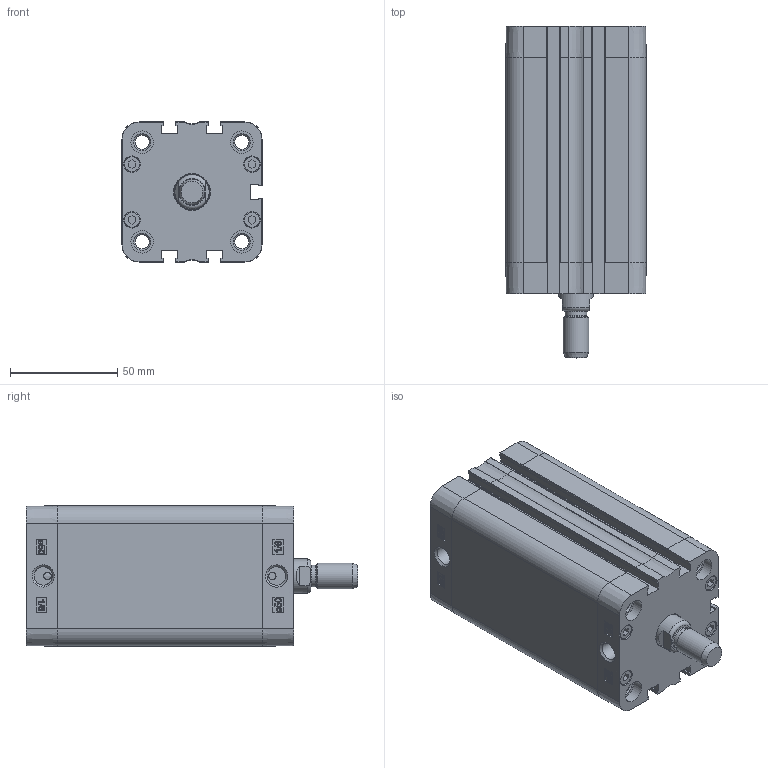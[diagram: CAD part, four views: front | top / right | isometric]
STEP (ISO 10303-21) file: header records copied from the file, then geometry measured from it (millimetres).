
FILE_DESCRIPTION((''),'2;1');
FILE_NAME('T:\Archivio Inventor\- CATALOGHI 2012\SERIE P - NUOVA\PDM\PDM050\PDM050.---.GS.M\PDM050.080.GS.M.stp','2013-02-01T12:20:53',('Administrator'),(''),'Autodesk Inventor 2012','Autodesk Inventor 2012','');
FILE_SCHEMA(('CONFIG_CONTROL_DESIGN'));
Length unit declared in the file: millimetre
Products named in the file (1): PDM050.080.GS.M
Bounding box: 65.5 x 155 x 65.5 mm (x, y, z)
Volume: 254669.9 mm3; surface area: 100323.9 mm2
Topology: 2 solids, 6 shells, 780 faces, 1860 edges, 1167 vertices
Faces by surface type: plane 335, bspline 196, cylinder 131, torus 56, cone 46, sphere 16
Full cylindrical faces by diameter (mm): 3.5 x2, 5.2 x4, 6.647 x8, 7.5 x8, 7.7 x8, 8.047 x4, 8.566 x2, 10 x1, 10.5 x8, 12 x2, 16 x1, 16.5 x1, 50 x1, 52.4 x1, 52.6 x1
Entity records: 25595 total; most frequent: CARTESIAN_POINT 8480, ORIENTED_EDGE 3488, DIRECTION 2866, EDGE_CURVE 1744, VERTEX_POINT 1148, AXIS2_PLACEMENT_3D 978, EDGE_LOOP 962, VECTOR 910
